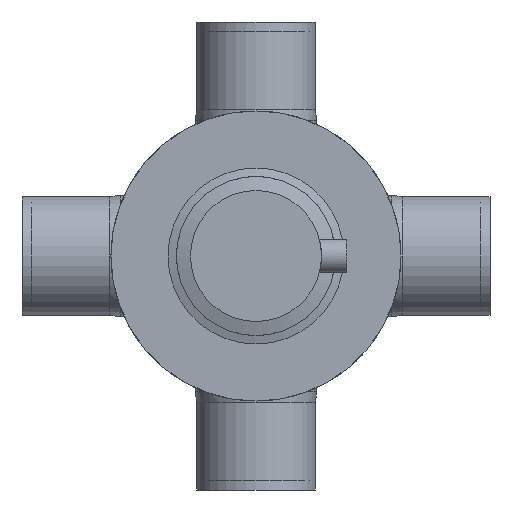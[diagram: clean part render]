
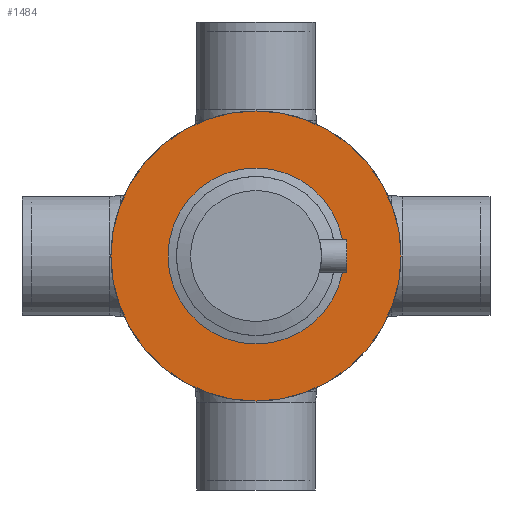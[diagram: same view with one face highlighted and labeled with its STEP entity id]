
A CAD part, front view. The second image highlights one B-rep face of the part: STEP entity #1484.
In plain terms, the highlighted planar face has unit normal (0, -1, 0).
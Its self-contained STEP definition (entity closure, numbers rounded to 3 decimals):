
#100=FACE_BOUND('',#334,.T.);
#130=PLANE('',#1779);
#215=FACE_OUTER_BOUND('',#333,.T.);
#333=EDGE_LOOP('',(#1273,#1274));
#334=EDGE_LOOP('',(#1275,#1276));
#567=CIRCLE('',#1777,42.5);
#568=CIRCLE('',#1778,42.5);
#569=CIRCLE('',#1780,77.5);
#570=CIRCLE('',#1781,77.5);
#722=VERTEX_POINT('',#2851);
#723=VERTEX_POINT('',#2853);
#724=VERTEX_POINT('',#2857);
#725=VERTEX_POINT('',#2858);
#914=EDGE_CURVE('',#723,#722,#567,.T.);
#915=EDGE_CURVE('',#722,#723,#568,.T.);
#916=EDGE_CURVE('',#724,#725,#569,.T.);
#917=EDGE_CURVE('',#725,#724,#570,.T.);
#1273=ORIENTED_EDGE('',*,*,#916,.F.);
#1274=ORIENTED_EDGE('',*,*,#917,.F.);
#1275=ORIENTED_EDGE('',*,*,#914,.T.);
#1276=ORIENTED_EDGE('',*,*,#915,.T.);
#1484=ADVANCED_FACE('',(#215,#100),#130,.F.);
#1777=AXIS2_PLACEMENT_3D('',#2854,#2255,#2256);
#1778=AXIS2_PLACEMENT_3D('',#2855,#2257,#2258);
#1779=AXIS2_PLACEMENT_3D('',#2856,#2259,#2260);
#1780=AXIS2_PLACEMENT_3D('',#2859,#2261,#2262);
#1781=AXIS2_PLACEMENT_3D('',#2860,#2263,#2264);
#2255=DIRECTION('center_axis',(0.,1.,0.));
#2256=DIRECTION('ref_axis',(1.,0.,0.));
#2257=DIRECTION('center_axis',(0.,1.,0.));
#2258=DIRECTION('ref_axis',(1.,0.,0.));
#2259=DIRECTION('center_axis',(0.,1.,0.));
#2260=DIRECTION('ref_axis',(0.,0.,1.));
#2261=DIRECTION('center_axis',(0.,1.,0.));
#2262=DIRECTION('ref_axis',(-1.,0.,0.));
#2263=DIRECTION('center_axis',(0.,1.,0.));
#2264=DIRECTION('ref_axis',(-1.,0.,0.));
#2851=CARTESIAN_POINT('',(42.5,-14.9,0.));
#2853=CARTESIAN_POINT('',(-42.5,-14.9,0.));
#2854=CARTESIAN_POINT('Origin',(0.,-14.9,0.));
#2855=CARTESIAN_POINT('Origin',(0.,-14.9,0.));
#2856=CARTESIAN_POINT('Origin',(-42.5,-14.9,0.));
#2857=CARTESIAN_POINT('',(-77.5,-14.9,0.));
#2858=CARTESIAN_POINT('',(77.5,-14.9,0.));
#2859=CARTESIAN_POINT('Origin',(0.,-14.9,0.));
#2860=CARTESIAN_POINT('Origin',(0.,-14.9,0.));
